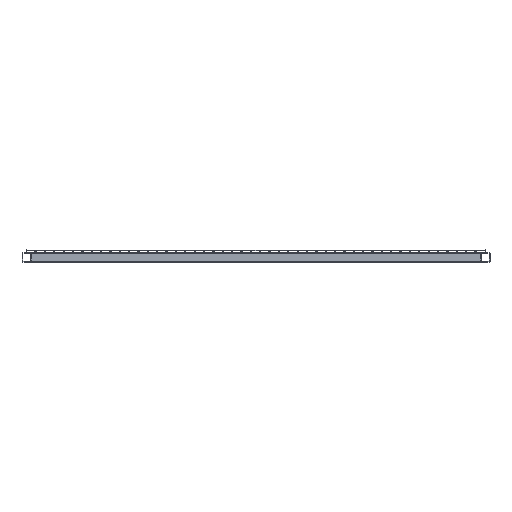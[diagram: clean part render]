
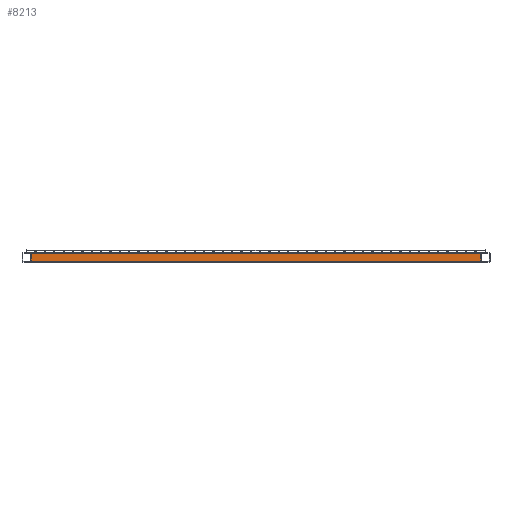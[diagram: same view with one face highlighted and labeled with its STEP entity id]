
A CAD part, front view. The second image highlights one B-rep face of the part: STEP entity #8213.
In plain terms, the highlighted planar face has unit normal (0, -1, 0).
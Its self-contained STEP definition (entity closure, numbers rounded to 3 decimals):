
#51 = LINE ( 'NONE', #8026, #4857 ) ;
#167 = DIRECTION ( 'NONE',  ( 0., 1., 0. ) ) ;
#1177 = LINE ( 'NONE', #1944, #2341 ) ;
#1544 = EDGE_CURVE ( 'NONE', #6925, #4278, #4464, .T. ) ;
#1944 = CARTESIAN_POINT ( 'NONE',  ( 500., -844., 8. ) ) ;
#2022 = CARTESIAN_POINT ( 'NONE',  ( 480., -844., -8. ) ) ;
#2341 = VECTOR ( 'NONE', #8426, 1000. ) ;
#3067 = VECTOR ( 'NONE', #5485, 1000. ) ;
#3153 = DIRECTION ( 'NONE',  ( 0., 0., -1. ) ) ;
#3309 = CARTESIAN_POINT ( 'NONE',  ( 480., -844., 8. ) ) ;
#3620 = ORIENTED_EDGE ( 'NONE', *, *, #8081, .T. ) ;
#4278 = VERTEX_POINT ( 'NONE', #2022 ) ;
#4284 = CARTESIAN_POINT ( 'NONE',  ( 500., -844., -8. ) ) ;
#4363 = VERTEX_POINT ( 'NONE', #5476 ) ;
#4464 = LINE ( 'NONE', #8014, #8414 ) ;
#4857 = VECTOR ( 'NONE', #5874, 1000. ) ;
#4996 = EDGE_LOOP ( 'NONE', ( #6836, #6885, #8871, #3620 ) ) ;
#5057 = CARTESIAN_POINT ( 'NONE',  ( -480., -844., -8. ) ) ;
#5476 = CARTESIAN_POINT ( 'NONE',  ( -480., -844., 8. ) ) ;
#5485 = DIRECTION ( 'NONE',  ( 0., 0., 1. ) ) ;
#5522 = LINE ( 'NONE', #6226, #3067 ) ;
#5722 = DIRECTION ( 'NONE',  ( 0., 0., 1. ) ) ;
#5874 = DIRECTION ( 'NONE',  ( -1., 0., 0. ) ) ;
#5994 = AXIS2_PLACEMENT_3D ( 'NONE', #4284, #167, #5722 ) ;
#6226 = CARTESIAN_POINT ( 'NONE',  ( -480., -844., -8. ) ) ;
#6420 = FACE_OUTER_BOUND ( 'NONE', #4996, .T. ) ;
#6520 = PLANE ( 'NONE',  #5994 ) ;
#6689 = VERTEX_POINT ( 'NONE', #5057 ) ;
#6836 = ORIENTED_EDGE ( 'NONE', *, *, #7604, .F. ) ;
#6885 = ORIENTED_EDGE ( 'NONE', *, *, #8895, .F. ) ;
#6925 = VERTEX_POINT ( 'NONE', #3309 ) ;
#7604 = EDGE_CURVE ( 'NONE', #6689, #4363, #5522, .T. ) ;
#8014 = CARTESIAN_POINT ( 'NONE',  ( 480., -844., -8. ) ) ;
#8026 = CARTESIAN_POINT ( 'NONE',  ( 500., -844., -8. ) ) ;
#8081 = EDGE_CURVE ( 'NONE', #6925, #4363, #1177, .T. ) ;
#8213 = ADVANCED_FACE ( 'NONE', ( #6420 ), #6520, .F. ) ;
#8414 = VECTOR ( 'NONE', #3153, 1000. ) ;
#8426 = DIRECTION ( 'NONE',  ( -1., 0., 0. ) ) ;
#8871 = ORIENTED_EDGE ( 'NONE', *, *, #1544, .F. ) ;
#8895 = EDGE_CURVE ( 'NONE', #4278, #6689, #51, .T. ) ;
